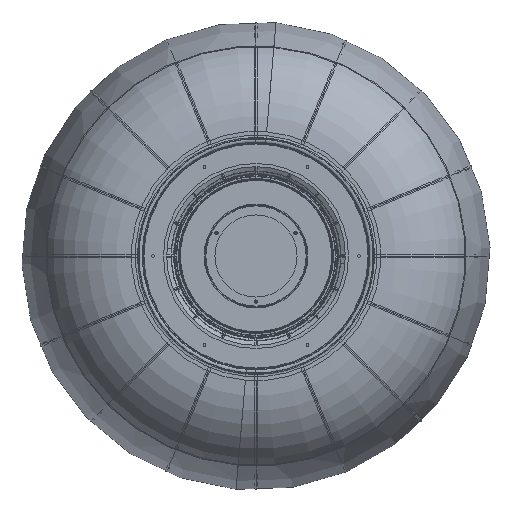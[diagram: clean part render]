
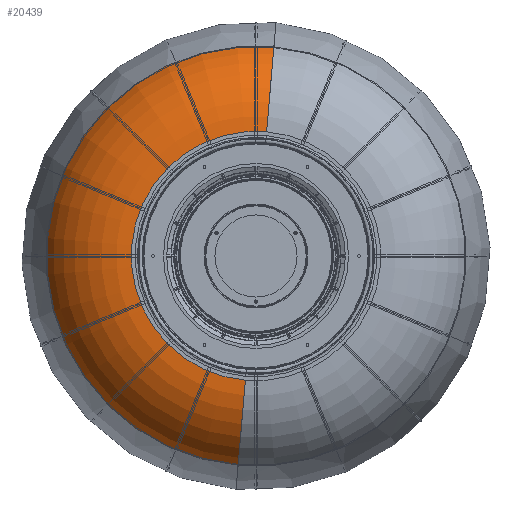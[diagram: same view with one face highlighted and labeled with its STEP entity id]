
A CAD part, front view. The second image highlights one B-rep face of the part: STEP entity #20439.
In plain terms, the highlighted toroidal (fillet/blend) face has major radius 136.808 mm and minor radius 103 mm.
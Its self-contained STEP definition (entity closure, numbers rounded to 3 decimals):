
#326 = CARTESIAN_POINT ( 'NONE',  ( 0., 57.226, 230.523 ) ) ;
#1262 = CARTESIAN_POINT ( 'NONE',  ( 0., -3.038, -136.808 ) ) ;
#1302 = CIRCLE ( 'NONE', #6071, 103. ) ;
#1881 = AXIS2_PLACEMENT_3D ( 'NONE', #1990, #21986, #7916 ) ;
#1990 = CARTESIAN_POINT ( 'NONE',  ( 0., -3.038, 0. ) ) ;
#4096 = CARTESIAN_POINT ( 'NONE',  ( 0., 57.226, -230.523 ) ) ;
#4456 = FACE_OUTER_BOUND ( 'NONE', #19938, .T. ) ;
#4483 = DIRECTION ( 'NONE',  ( 1., 0., 0. ) ) ;
#4511 = EDGE_CURVE ( 'NONE', #9780, #13733, #11233, .T. ) ;
#6071 = AXIS2_PLACEMENT_3D ( 'NONE', #18856, #20557, #14586 ) ;
#6228 = CARTESIAN_POINT ( 'NONE',  ( 0., 99.962, 0. ) ) ;
#6526 = CARTESIAN_POINT ( 'NONE',  ( 0., 99.962, -136.808 ) ) ;
#6685 = CARTESIAN_POINT ( 'NONE',  ( 0., 57.226, 0. ) ) ;
#7797 = EDGE_CURVE ( 'NONE', #21605, #15468, #10014, .T. ) ;
#7916 = DIRECTION ( 'NONE',  ( 0., 0., 1. ) ) ;
#8423 = ORIENTED_EDGE ( 'NONE', *, *, #26252, .F. ) ;
#8996 = ORIENTED_EDGE ( 'NONE', *, *, #7797, .T. ) ;
#9008 = ORIENTED_EDGE ( 'NONE', *, *, #4511, .F. ) ;
#9780 = VERTEX_POINT ( 'NONE', #4096 ) ;
#10014 = CIRCLE ( 'NONE', #1881, 136.808 ) ;
#11233 = CIRCLE ( 'NONE', #21991, 230.523 ) ;
#11360 = AXIS2_PLACEMENT_3D ( 'NONE', #6228, #22653, #18415 ) ;
#12436 = CIRCLE ( 'NONE', #18451, 103. ) ;
#13733 = VERTEX_POINT ( 'NONE', #326 ) ;
#14586 = DIRECTION ( 'NONE',  ( 0., 0., 1. ) ) ;
#14868 = TOROIDAL_SURFACE ( 'NONE', #11360, 136.808, 103. ) ;
#15468 = VERTEX_POINT ( 'NONE', #22736 ) ;
#18078 = DIRECTION ( 'NONE',  ( 0., 0., 1. ) ) ;
#18415 = DIRECTION ( 'NONE',  ( 0., 0., 1. ) ) ;
#18451 = AXIS2_PLACEMENT_3D ( 'NONE', #6526, #4483, #18615 ) ;
#18615 = DIRECTION ( 'NONE',  ( 0., 0., -1. ) ) ;
#18856 = CARTESIAN_POINT ( 'NONE',  ( 0., 99.962, 136.808 ) ) ;
#19485 = ORIENTED_EDGE ( 'NONE', *, *, #23548, .T. ) ;
#19938 = EDGE_LOOP ( 'NONE', ( #8423, #8996, #19485, #9008 ) ) ;
#20439 = ADVANCED_FACE ( 'NONE', ( #4456 ), #14868, .T. ) ;
#20557 = DIRECTION ( 'NONE',  ( -1., 0., 0. ) ) ;
#21605 = VERTEX_POINT ( 'NONE', #1262 ) ;
#21986 = DIRECTION ( 'NONE',  ( 0., 1., 0. ) ) ;
#21991 = AXIS2_PLACEMENT_3D ( 'NONE', #6685, #24794, #18078 ) ;
#22653 = DIRECTION ( 'NONE',  ( 0., 1., 0. ) ) ;
#22736 = CARTESIAN_POINT ( 'NONE',  ( 0., -3.038, 136.808 ) ) ;
#23548 = EDGE_CURVE ( 'NONE', #15468, #13733, #1302, .T. ) ;
#24794 = DIRECTION ( 'NONE',  ( 0., 1., 0. ) ) ;
#26252 = EDGE_CURVE ( 'NONE', #21605, #9780, #12436, .T. ) ;
